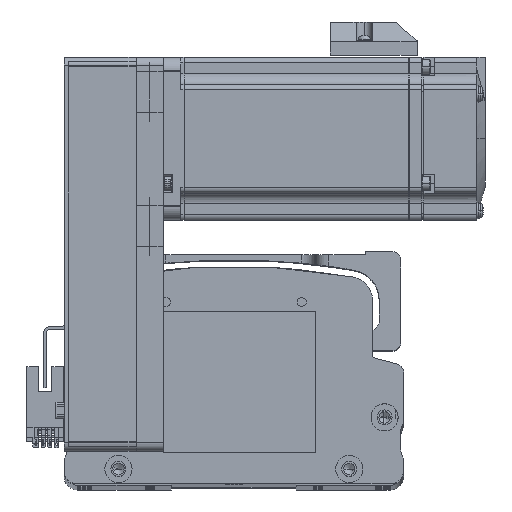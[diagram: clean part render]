
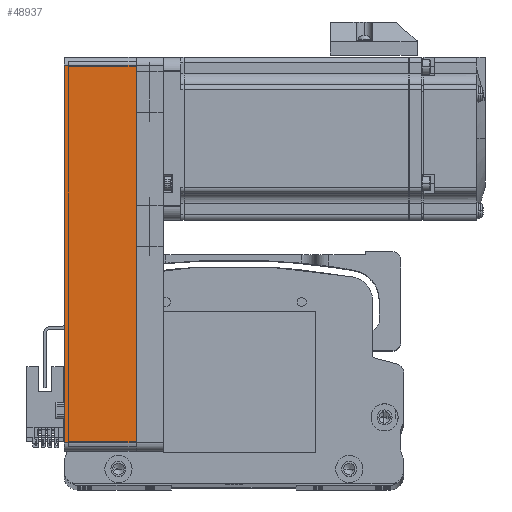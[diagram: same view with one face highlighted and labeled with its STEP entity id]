
A CAD part, top view. The second image highlights one B-rep face of the part: STEP entity #48937.
In plain terms, the highlighted planar face has unit normal (0, 0, 1) as drawn and (0, -1, 0) by its records, which use the part's own axes.
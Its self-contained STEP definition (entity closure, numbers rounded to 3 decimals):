
#629 = VECTOR ( 'NONE', #23821, 1000. ) ;
#8464 = DIRECTION ( 'NONE',  ( 1., 0., 0. ) ) ;
#9748 = DIRECTION ( 'NONE',  ( 0., 1., 0. ) ) ;
#10749 = CARTESIAN_POINT ( 'NONE',  ( -69.5, -30., 0. ) ) ;
#16722 = CARTESIAN_POINT ( 'NONE',  ( 69.5, -30., 26.5 ) ) ;
#17056 = LINE ( 'NONE', #28505, #66884 ) ;
#18482 = LINE ( 'NONE', #27777, #31646 ) ;
#23049 = CARTESIAN_POINT ( 'NONE',  ( 69.5, -30., 26.5 ) ) ;
#23821 = DIRECTION ( 'NONE',  ( 0., 0., -1. ) ) ;
#26650 = ORIENTED_EDGE ( 'NONE', *, *, #45412, .F. ) ;
#27777 = CARTESIAN_POINT ( 'NONE',  ( 72.5, -30., 0. ) ) ;
#28505 = CARTESIAN_POINT ( 'NONE',  ( 72.5, -30., 26.5 ) ) ;
#31423 = LINE ( 'NONE', #16722, #44680 ) ;
#31646 = VECTOR ( 'NONE', #8464, 1000. ) ;
#35174 = LINE ( 'NONE', #43469, #629 ) ;
#35704 = FACE_OUTER_BOUND ( 'NONE', #70716, .T. ) ;
#40173 = AXIS2_PLACEMENT_3D ( 'NONE', #48699, #9748, #55186 ) ;
#41251 = CARTESIAN_POINT ( 'NONE',  ( 69.5, -30., 0. ) ) ;
#43469 = CARTESIAN_POINT ( 'NONE',  ( -69.5, -30., 26.5 ) ) ;
#44680 = VECTOR ( 'NONE', #62217, 1000. ) ;
#45412 = EDGE_CURVE ( 'NONE', #71613, #64614, #17056, .T. ) ;
#45424 = VERTEX_POINT ( 'NONE', #41251 ) ;
#48699 = CARTESIAN_POINT ( 'NONE',  ( 72.5, -30., 26.5 ) ) ;
#48937 = ADVANCED_FACE ( 'NONE', ( #35704 ), #61497, .F. ) ;
#55186 = DIRECTION ( 'NONE',  ( -1., 0., 0. ) ) ;
#58246 = EDGE_CURVE ( 'NONE', #45424, #64614, #31423, .T. ) ;
#61497 = PLANE ( 'NONE',  #40173 ) ;
#62217 = DIRECTION ( 'NONE',  ( 0., 0., 1. ) ) ;
#63299 = EDGE_CURVE ( 'NONE', #71613, #74410, #35174, .T. ) ;
#64614 = VERTEX_POINT ( 'NONE', #23049 ) ;
#65560 = EDGE_CURVE ( 'NONE', #74410, #45424, #18482, .T. ) ;
#66410 = ORIENTED_EDGE ( 'NONE', *, *, #65560, .T. ) ;
#66884 = VECTOR ( 'NONE', #73958, 1000. ) ;
#67954 = ORIENTED_EDGE ( 'NONE', *, *, #63299, .T. ) ;
#70716 = EDGE_LOOP ( 'NONE', ( #66410, #72226, #26650, #67954 ) ) ;
#71613 = VERTEX_POINT ( 'NONE', #78250 ) ;
#72226 = ORIENTED_EDGE ( 'NONE', *, *, #58246, .T. ) ;
#73958 = DIRECTION ( 'NONE',  ( 1., 0., 0. ) ) ;
#74410 = VERTEX_POINT ( 'NONE', #10749 ) ;
#78250 = CARTESIAN_POINT ( 'NONE',  ( -69.5, -30., 26.5 ) ) ;
